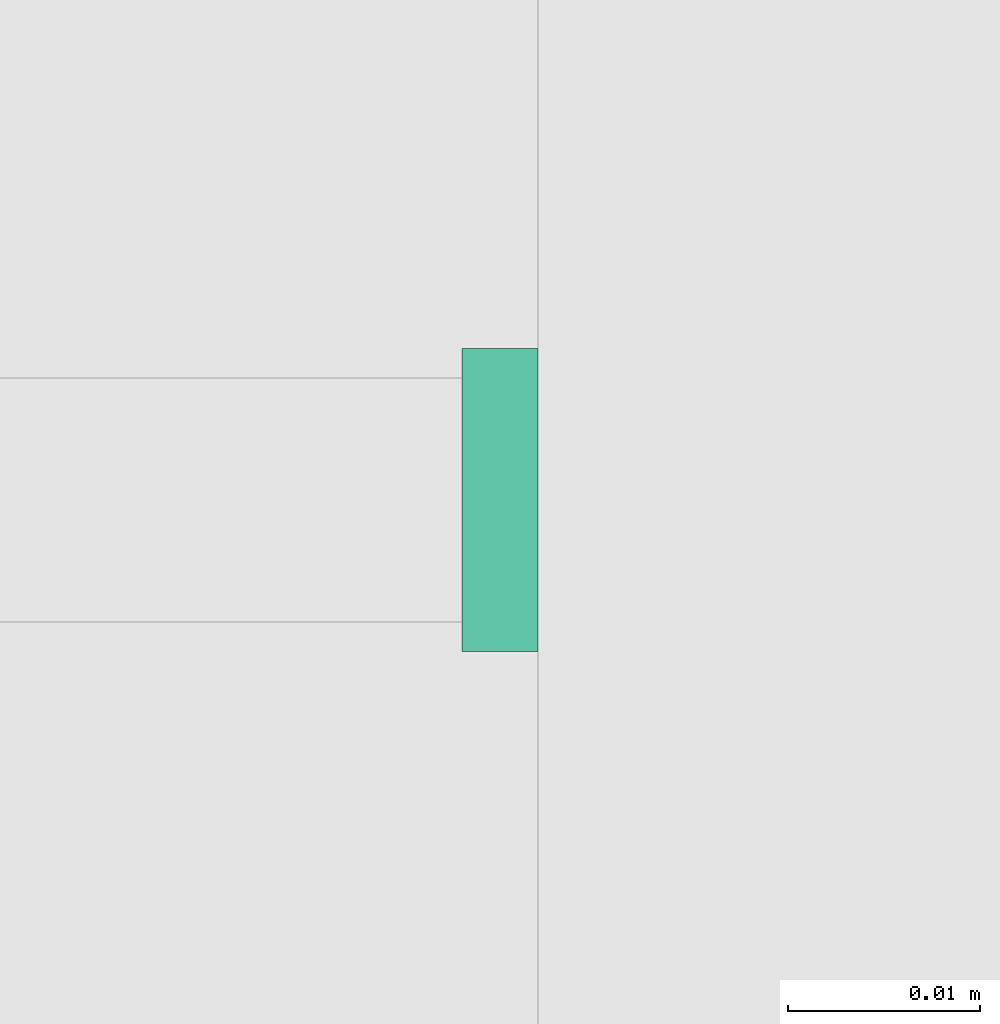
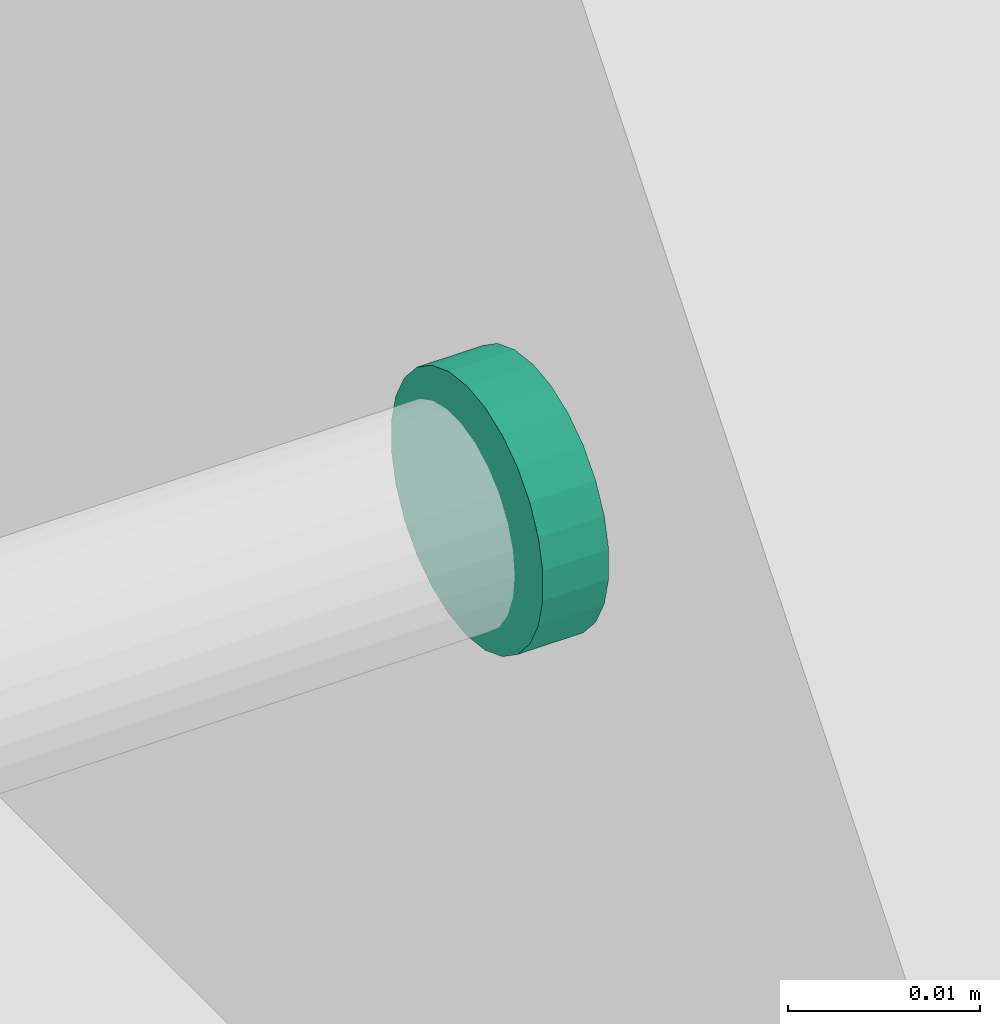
# One storey, part 13 of 22: 1 flow fitting.
"""IFC2X3 building model written with IfcOpenShell, lengths in millimetres."""

from ifc_helpers import new_model, entity, si_unit, converted_unit, derived_unit, direction, frame, origin, origin_2d_with_axis, place, context, subcontext, project, spatial, circle, extrude, source, transform, mapped, material, type_object, type_shapes, element, save


model = new_model("IFC2X3")

# Units and contexts
model_context = context("Model", 3, precision=0.01, world=origin(), true_north=direction((6.123031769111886e-17, 1.0)))
body_context = subcontext(model_context, "Body", "Model", "MODEL_VIEW")
ifc_project = project(units=[si_unit("LENGTHUNIT", "METRE", prefix="MILLI"), si_unit("AREAUNIT", "SQUARE_METRE"), si_unit("VOLUMEUNIT", "CUBIC_METRE"), converted_unit("PLANEANGLEUNIT", "DEGREE", entity("IfcRatioMeasure", 0.017453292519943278), si_unit("PLANEANGLEUNIT", "RADIAN"), dimensions=[0, 0, 0, 0, 0, 0, 0]), si_unit("MASSUNIT", "GRAM", prefix="KILO"), derived_unit("MASSDENSITYUNIT", [(si_unit("MASSUNIT", "GRAM", prefix="KILO"), 1), (si_unit("LENGTHUNIT", "METRE"), -3)]), derived_unit("MOMENTOFINERTIAUNIT", [(si_unit("LENGTHUNIT", "METRE"), 4)]), si_unit("TIMEUNIT", "SECOND"), si_unit("FREQUENCYUNIT", "HERTZ"), si_unit("THERMODYNAMICTEMPERATUREUNIT", "DEGREE_CELSIUS"), derived_unit("THERMALTRANSMITTANCEUNIT", [(si_unit("MASSUNIT", "GRAM", prefix="KILO"), 1), (si_unit("THERMODYNAMICTEMPERATUREUNIT", "KELVIN"), -1), (si_unit("TIMEUNIT", "SECOND"), -3)]), derived_unit("VOLUMETRICFLOWRATEUNIT", [(si_unit("LENGTHUNIT", "METRE"), 3), (si_unit("TIMEUNIT", "SECOND"), -1)]), derived_unit("MASSFLOWRATEUNIT", [(si_unit("MASSUNIT", "GRAM", prefix="KILO"), 1), (si_unit("TIMEUNIT", "SECOND"), -1)]), derived_unit("ROTATIONALFREQUENCYUNIT", [(si_unit("TIMEUNIT", "SECOND"), -1)]), si_unit("ELECTRICCURRENTUNIT", "AMPERE"), si_unit("ELECTRICVOLTAGEUNIT", "VOLT"), si_unit("POWERUNIT", "WATT"), si_unit("FORCEUNIT", "NEWTON", prefix="KILO"), si_unit("ILLUMINANCEUNIT", "LUX"), si_unit("LUMINOUSFLUXUNIT", "LUMEN"), si_unit("LUMINOUSINTENSITYUNIT", "CANDELA"), derived_unit("USERDEFINED", [(si_unit("MASSUNIT", "GRAM", prefix="KILO"), -1), (si_unit("LENGTHUNIT", "METRE"), -2), (si_unit("TIMEUNIT", "SECOND"), 3), (si_unit("LUMINOUSFLUXUNIT", "LUMEN"), 1)]), derived_unit("SOUNDPOWERUNIT", [(si_unit("MASSUNIT", "GRAM", prefix="KILO"), 1), (si_unit("LENGTHUNIT", "METRE"), 2), (si_unit("TIMEUNIT", "SECOND"), -3)]), derived_unit("SOUNDPRESSUREUNIT", [(si_unit("MASSUNIT", "GRAM", prefix="KILO"), 1), (si_unit("LENGTHUNIT", "METRE"), -1), (si_unit("TIMEUNIT", "SECOND"), -2)]), derived_unit("LINEARVELOCITYUNIT", [(si_unit("LENGTHUNIT", "METRE"), 1), (si_unit("TIMEUNIT", "SECOND"), -1)]), si_unit("PRESSUREUNIT", "PASCAL"), derived_unit("USERDEFINED", [(si_unit("LENGTHUNIT", "METRE"), -2), (si_unit("MASSUNIT", "GRAM", prefix="KILO"), 1), (si_unit("TIMEUNIT", "SECOND"), -2)]), derived_unit("LINEARFORCEUNIT", [(si_unit("MASSUNIT", "GRAM", prefix="KILO"), 1), (si_unit("LENGTHUNIT", "METRE"), 1), (si_unit("TIMEUNIT", "SECOND"), -2), (si_unit("LENGTHUNIT", "METRE"), -1)]), derived_unit("PLANARFORCEUNIT", [(si_unit("MASSUNIT", "GRAM", prefix="KILO"), 1), (si_unit("LENGTHUNIT", "METRE"), 1), (si_unit("TIMEUNIT", "SECOND"), -2), (si_unit("LENGTHUNIT", "METRE"), -2)])], contexts=[model_context])

# Site, building, storey
site_placement = place(None, origin())
site = spatial("IfcSite", under=ifc_project, at=site_placement, Name="Default", CompositionType="ELEMENT")
building_placement = place(site_placement, origin())
building = spatial("IfcBuilding", under=site, at=building_placement, CompositionType="ELEMENT")
storey_placement = place(building_placement, frame((0.0, 0.0, 3300.0)))
storey = spatial("IfcBuildingStorey", under=building, at=storey_placement, Name="Level 2", CompositionType="ELEMENT", Elevation=3299.99999999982)

# Flow fitting
ifc_material = material(Name="<Unnamed>")
pipe_fitting_type = type_object("IfcPipeFittingType", Name="M_Transition - Generic:Standard:Standard : M_Transition - Generic:Standard", PredefinedType="NOTDEFINED", material=ifc_material)
shared_shape = source(origin(), body_context, "Body", "SweptSolid", [
    extrude(circle(Radius=7.937500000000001, at=origin_2d_with_axis()), frame((-6732.74673790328, -2540.13146363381, 6010.0), z_axis=(1.0, 0.0, 0.0), x_axis=(0.0, 0.0, 1.0)), (0.0, 0.0, 1.0), 3.9687499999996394),
])
type_shapes(pipe_fitting_type, [shared_shape])
flow_fitting_placement = place(storey_placement, frame((0.0, 0.0, -3300.0)))
element("IfcFlowFitting", 1, at=flow_fitting_placement, inside=storey, type_object=pipe_fitting_type, material=ifc_material, Name="M_Transition - Generic:Standard:Standard : M_Transition - Generic:Standard:Standard:Standard : M_Transition - Generic:Standard : M_Transition - Generic:Standard:Standard : M_Transition - Generic:Standard", ObjectType="M_Transition - Generic:Standard:Standard : M_Transition - Generic:Standard:Standard:Standard : M_Transition - Generic:Standard : M_Transition - Generic:Standard:Standard : M_Transition - Generic:Standard", context=body_context, shape_type="MappedRepresentation", body=[
    mapped(shared_shape, transform((0.0, 0.0, 0.0), scale=1.0)),
])

save(model, "model.ifc")
